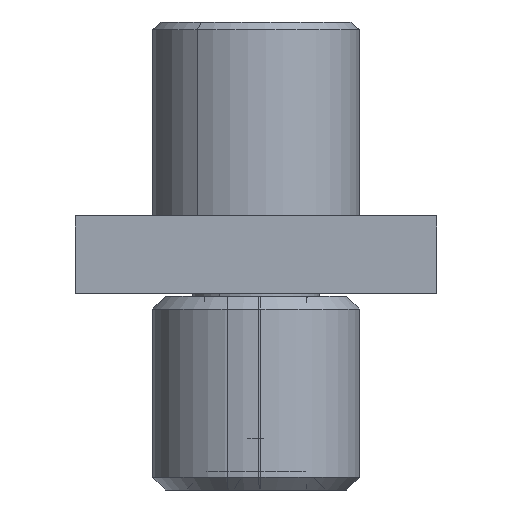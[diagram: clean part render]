
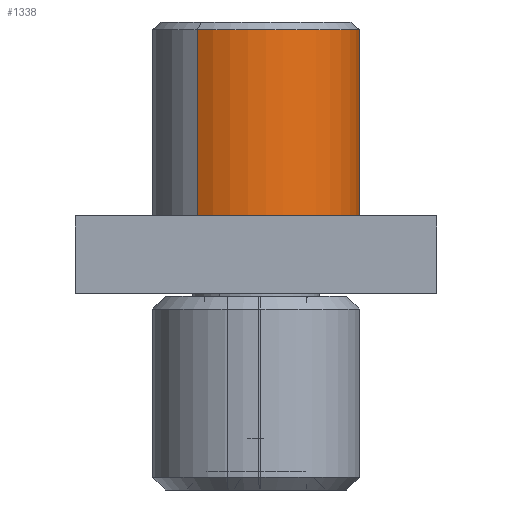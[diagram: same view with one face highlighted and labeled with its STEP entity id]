
A CAD part, left-side view. The second image highlights one B-rep face of the part: STEP entity #1338.
In plain terms, the highlighted cylindrical face has radius 4 mm (diameter 8 mm), a partial arc.
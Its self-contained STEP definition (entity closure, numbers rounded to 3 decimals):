
#62 = AXIS2_PLACEMENT_3D ( 'NONE', #329, #693, #478 ) ;
#77 = FACE_OUTER_BOUND ( 'NONE', #1050, .T. ) ;
#143 = DIRECTION ( 'NONE',  ( 0., 0., -1. ) ) ;
#162 = ORIENTED_EDGE ( 'NONE', *, *, #228, .T. ) ;
#164 = CARTESIAN_POINT ( 'NONE',  ( 0., 0., -18.1 ) ) ;
#168 = VERTEX_POINT ( 'NONE', #201 ) ;
#201 = CARTESIAN_POINT ( 'NONE',  ( 0., -4., -0.3 ) ) ;
#214 = ORIENTED_EDGE ( 'NONE', *, *, #769, .F. ) ;
#228 = EDGE_CURVE ( 'NONE', #168, #1254, #317, .T. ) ;
#278 = ORIENTED_EDGE ( 'NONE', *, *, #1003, .F. ) ;
#282 = ORIENTED_EDGE ( 'NONE', *, *, #341, .T. ) ;
#317 = CIRCLE ( 'NONE', #1246, 4. ) ;
#329 = CARTESIAN_POINT ( 'NONE',  ( 0., 0., -7.5 ) ) ;
#341 = EDGE_CURVE ( 'NONE', #1254, #1095, #785, .T. ) ;
#478 = DIRECTION ( 'NONE',  ( 0., 1., 0. ) ) ;
#521 = DIRECTION ( 'NONE',  ( 0., 1., 0. ) ) ;
#527 = AXIS2_PLACEMENT_3D ( 'NONE', #164, #817, #521 ) ;
#568 = CARTESIAN_POINT ( 'NONE',  ( 0., 4., -7.5 ) ) ;
#574 = CIRCLE ( 'NONE', #62, 4. ) ;
#591 = VECTOR ( 'NONE', #882, 1000. ) ;
#656 = VERTEX_POINT ( 'NONE', #663 ) ;
#659 = CARTESIAN_POINT ( 'NONE',  ( 0., 4., -0.3 ) ) ;
#663 = CARTESIAN_POINT ( 'NONE',  ( 0., -4., -7.5 ) ) ;
#686 = DIRECTION ( 'NONE',  ( 0., 1., 0. ) ) ;
#693 = DIRECTION ( 'NONE',  ( 0., 0., -1. ) ) ;
#724 = DIRECTION ( 'NONE',  ( 0., 0., -1. ) ) ;
#743 = CARTESIAN_POINT ( 'NONE',  ( 0., 0., -0.3 ) ) ;
#769 = EDGE_CURVE ( 'NONE', #656, #1095, #574, .T. ) ;
#785 = LINE ( 'NONE', #888, #591 ) ;
#817 = DIRECTION ( 'NONE',  ( 0., 0., -1. ) ) ;
#882 = DIRECTION ( 'NONE',  ( 0., 0., -1. ) ) ;
#888 = CARTESIAN_POINT ( 'NONE',  ( 0., 4., -18.1 ) ) ;
#1003 = EDGE_CURVE ( 'NONE', #168, #656, #1187, .T. ) ;
#1050 = EDGE_LOOP ( 'NONE', ( #278, #162, #282, #214 ) ) ;
#1077 = VECTOR ( 'NONE', #143, 1000. ) ;
#1095 = VERTEX_POINT ( 'NONE', #568 ) ;
#1187 = LINE ( 'NONE', #1342, #1077 ) ;
#1216 = CYLINDRICAL_SURFACE ( 'NONE', #527, 4. ) ;
#1246 = AXIS2_PLACEMENT_3D ( 'NONE', #743, #724, #686 ) ;
#1254 = VERTEX_POINT ( 'NONE', #659 ) ;
#1338 = ADVANCED_FACE ( 'NONE', ( #77 ), #1216, .T. ) ;
#1342 = CARTESIAN_POINT ( 'NONE',  ( 0., -4., -18.1 ) ) ;
